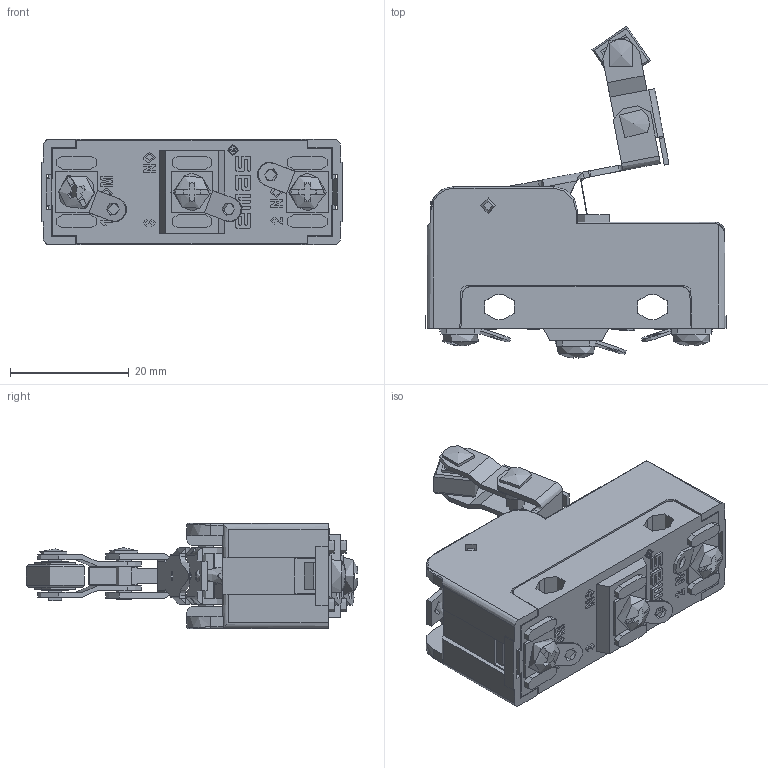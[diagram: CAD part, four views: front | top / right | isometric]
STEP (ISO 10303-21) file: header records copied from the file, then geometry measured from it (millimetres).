
FILE_DESCRIPTION((''),'2; 1');
FILE_NAME('','2026-03-27T16:29:33',(''),(''),'CST STEP Exporter V1.0','Unknown','');
FILE_SCHEMA(('CONFIG_CONTROL_DESIGN'));
Length unit declared in the file: metre
Assembly tree (19 placements, depth 2):
  (unnamed)
    (unnamed)
    (unnamed)
    (unnamed)
    (unnamed)
    (unnamed)
    (unnamed)
    (unnamed)
    (unnamed)
    (unnamed)
    (unnamed)
    (unnamed)
    (unnamed)
    (unnamed)
    (unnamed)
    (unnamed)
    (unnamed)
    (unnamed)
    (unnamed)
    (unnamed)
Bounding box: 50.5 x 55.82 x 17.7 mm (x, y, z)
Topology: 0 solids, 56 shells, 615 faces, 1864 edges, 1280 vertices
Faces by surface type: plane 365, cylinder 171, extrusion 53, cone 10, torus 8, sphere 6, bspline 2
Full cylindrical faces by diameter (mm): 1.2 x1, 1.4 x1, 1.8 x2, 1.9 x2, 2 x1, 2.2 x3, 2.5 x1, 2.6 x3, 3 x3, 3.2 x4, 5 x1, 5.5 x2, 7 x2, 8.2 x1, 10 x1
Entity records: 28925 total; most frequent: CARTESIAN_POINT 7056, ORIENTED_EDGE 3360, DIRECTION 3228, EDGE_CURVE 1870, VERTEX_POINT 1304, VECTOR 1222, LINE 1169, AXIS2_PLACEMENT_3D 1003
